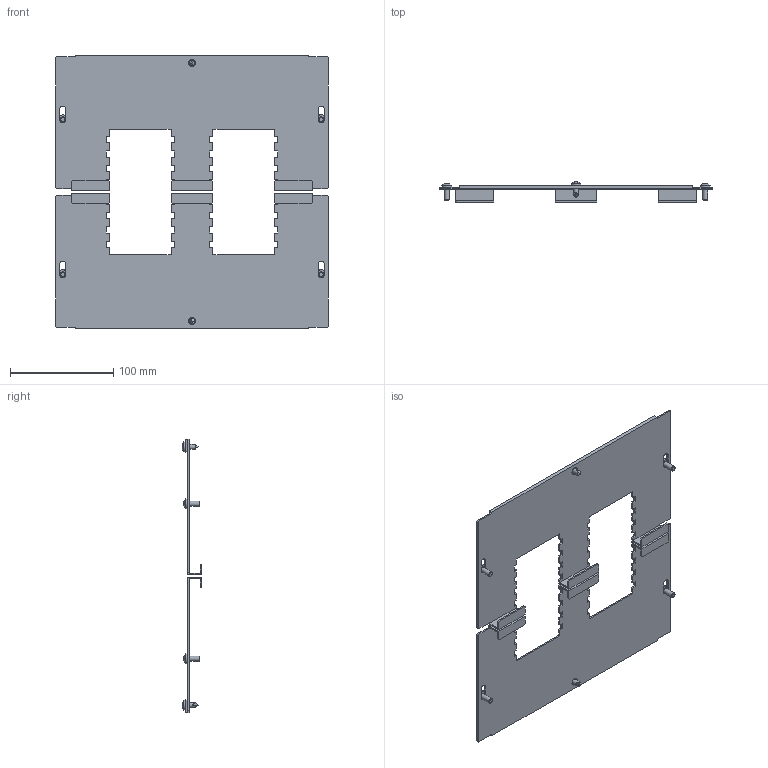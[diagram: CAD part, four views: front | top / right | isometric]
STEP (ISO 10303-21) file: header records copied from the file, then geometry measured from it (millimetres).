
FILE_DESCRIPTION(('Open CASCADE Model'),'2;1');
FILE_NAME('Open CASCADE Shape Model','2025-02-21T14:48:42',('Author'),( 'Open CASCADE'),'Open CASCADE STEP processor 7.8','Open CASCADE 7.8' ,'Unknown');
FILE_SCHEMA(('AUTOMOTIVE_DESIGN { 1 0 10303 214 1 1 1 1 }'));
Length unit declared in the file: millimetre
Products named in the file (4): Compound1; Solid1; Solid2; Solid3
Assembly tree (8 placements, depth 2):
  Compound1
    Solid1  x2
    Solid2  x2
    Solid3  x4
Bounding box: 264 x 19.31 x 265 mm (x, y, z)
Volume: 99152.2 mm3; surface area: 135521.7 mm2
Topology: 8 solids, 8 shells, 386 faces, 1038 edges, 666 vertices
Faces by surface type: plane 320, cylinder 24, cone 14, torus 12, sphere 10, bspline 6
Full cylindrical faces by diameter (mm): 4.8 x2, 5 x4, 6 x2, 7 x2, 9.5 x6
Entity records: 6325 total; most frequent: CARTESIAN_POINT 1778, ORIENTED_EDGE 966, DIRECTION 859, EDGE_CURVE 483, LINE 405, VECTOR 405, VERTEX_POINT 316, AXIS2_PLACEMENT_3D 227
